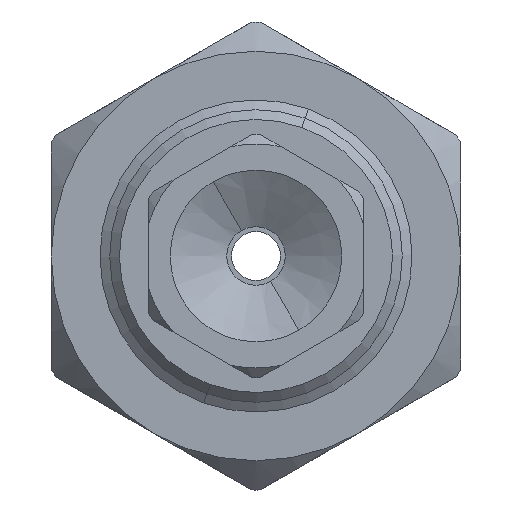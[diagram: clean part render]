
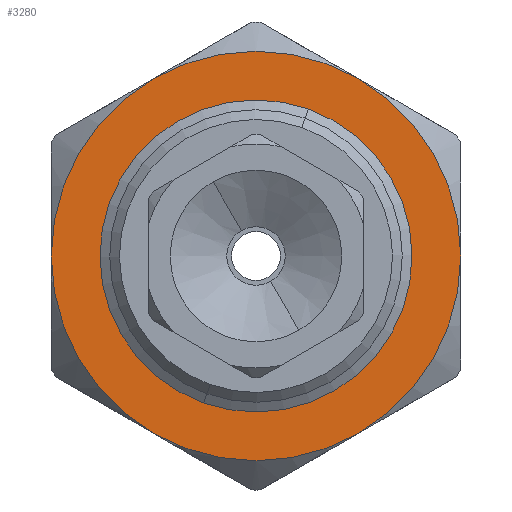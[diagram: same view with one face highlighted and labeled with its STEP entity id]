
A CAD part, front view. The second image highlights one B-rep face of the part: STEP entity #3280.
In plain terms, the highlighted planar face has unit normal (0, -1, 0).
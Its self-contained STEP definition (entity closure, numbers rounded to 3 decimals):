
#71 = EDGE_CURVE ( 'NONE', #2923, #13880, #11452, .T. ) ;
#479 = CARTESIAN_POINT ( 'NONE',  ( 0., 0., -10.5 ) ) ;
#631 = CIRCLE ( 'NONE', #11801, 10.5 ) ;
#672 = CARTESIAN_POINT ( 'NONE',  ( 0., 0., 7.25 ) ) ;
#763 = AXIS2_PLACEMENT_3D ( 'NONE', #2739, #1932, #9781 ) ;
#810 = DIRECTION ( 'NONE',  ( 0., 0., 1. ) ) ;
#840 = CARTESIAN_POINT ( 'NONE',  ( -9.093, 0., -5.25 ) ) ;
#955 = CARTESIAN_POINT ( 'NONE',  ( 0., 0., 0. ) ) ;
#1196 = CARTESIAN_POINT ( 'NONE',  ( 0., 0., 0. ) ) ;
#1346 = ORIENTED_EDGE ( 'NONE', *, *, #4071, .T. ) ;
#1357 = CARTESIAN_POINT ( 'NONE',  ( 0., 0., 0. ) ) ;
#1377 = DIRECTION ( 'NONE',  ( 0., 1., 0. ) ) ;
#1649 = VERTEX_POINT ( 'NONE', #2186 ) ;
#1803 = AXIS2_PLACEMENT_3D ( 'NONE', #12537, #10304, #2741 ) ;
#1932 = DIRECTION ( 'NONE',  ( 0., -1., 0. ) ) ;
#2110 = CIRCLE ( 'NONE', #7232, 10.5 ) ;
#2126 = FACE_BOUND ( 'NONE', #14270, .T. ) ;
#2186 = CARTESIAN_POINT ( 'NONE',  ( -9.093, 0., 5.25 ) ) ;
#2580 = DIRECTION ( 'NONE',  ( 0., 0., 1. ) ) ;
#2739 = CARTESIAN_POINT ( 'NONE',  ( 0., 0., 0. ) ) ;
#2741 = DIRECTION ( 'NONE',  ( 0., 0., 1. ) ) ;
#2821 = AXIS2_PLACEMENT_3D ( 'NONE', #9765, #13300, #8824 ) ;
#2923 = VERTEX_POINT ( 'NONE', #479 ) ;
#3280 = ADVANCED_FACE ( 'NONE', ( #2126, #8897 ), #6571, .F. ) ;
#3287 = EDGE_CURVE ( 'NONE', #1649, #4807, #2110, .T. ) ;
#3550 = VERTEX_POINT ( 'NONE', #672 ) ;
#3591 = DIRECTION ( 'NONE',  ( 0., -1., 0. ) ) ;
#3741 = CARTESIAN_POINT ( 'NONE',  ( 0., 0., 10.5 ) ) ;
#3990 = EDGE_CURVE ( 'NONE', #4807, #2923, #7820, .T. ) ;
#4071 = EDGE_CURVE ( 'NONE', #13880, #11716, #13374, .T. ) ;
#4220 = CIRCLE ( 'NONE', #7490, 7.25 ) ;
#4335 = AXIS2_PLACEMENT_3D ( 'NONE', #955, #8646, #810 ) ;
#4559 = DIRECTION ( 'NONE',  ( 0., -1., 0. ) ) ;
#4807 = VERTEX_POINT ( 'NONE', #840 ) ;
#4979 = CARTESIAN_POINT ( 'NONE',  ( 9.093, 0., -5.25 ) ) ;
#5001 = ORIENTED_EDGE ( 'NONE', *, *, #13895, .T. ) ;
#5927 = CARTESIAN_POINT ( 'NONE',  ( 0., 0., -7.25 ) ) ;
#6030 = CARTESIAN_POINT ( 'NONE',  ( 0., 0., 0. ) ) ;
#6221 = AXIS2_PLACEMENT_3D ( 'NONE', #12336, #4559, #13420 ) ;
#6347 = VERTEX_POINT ( 'NONE', #3741 ) ;
#6515 = ORIENTED_EDGE ( 'NONE', *, *, #3990, .T. ) ;
#6529 = EDGE_LOOP ( 'NONE', ( #12221, #1346, #5001, #10709, #13487, #6515 ) ) ;
#6559 = AXIS2_PLACEMENT_3D ( 'NONE', #14310, #9990, #12150 ) ;
#6571 = PLANE ( 'NONE',  #2821 ) ;
#6727 = EDGE_CURVE ( 'NONE', #12494, #3550, #7715, .T. ) ;
#7184 = DIRECTION ( 'NONE',  ( 0., 0., 1. ) ) ;
#7232 = AXIS2_PLACEMENT_3D ( 'NONE', #1196, #7574, #8961 ) ;
#7490 = AXIS2_PLACEMENT_3D ( 'NONE', #6030, #1377, #7184 ) ;
#7574 = DIRECTION ( 'NONE',  ( 0., -1., 0. ) ) ;
#7715 = CIRCLE ( 'NONE', #6559, 7.25 ) ;
#7820 = CIRCLE ( 'NONE', #4335, 10.5 ) ;
#8646 = DIRECTION ( 'NONE',  ( 0., -1., 0. ) ) ;
#8824 = DIRECTION ( 'NONE',  ( 0., 0., 1. ) ) ;
#8897 = FACE_OUTER_BOUND ( 'NONE', #6529, .T. ) ;
#8961 = DIRECTION ( 'NONE',  ( 0., 0., 1. ) ) ;
#9163 = ORIENTED_EDGE ( 'NONE', *, *, #11713, .T. ) ;
#9765 = CARTESIAN_POINT ( 'NONE',  ( 0., 0., 0. ) ) ;
#9781 = DIRECTION ( 'NONE',  ( 0., 0., 1. ) ) ;
#9990 = DIRECTION ( 'NONE',  ( 0., 1., 0. ) ) ;
#10304 = DIRECTION ( 'NONE',  ( 0., -1., 0. ) ) ;
#10709 = ORIENTED_EDGE ( 'NONE', *, *, #13429, .T. ) ;
#11452 = CIRCLE ( 'NONE', #763, 10.5 ) ;
#11478 = CARTESIAN_POINT ( 'NONE',  ( 9.093, 0., 5.25 ) ) ;
#11713 = EDGE_CURVE ( 'NONE', #3550, #12494, #4220, .T. ) ;
#11716 = VERTEX_POINT ( 'NONE', #11478 ) ;
#11801 = AXIS2_PLACEMENT_3D ( 'NONE', #1357, #3591, #2580 ) ;
#12150 = DIRECTION ( 'NONE',  ( 0., 0., 1. ) ) ;
#12221 = ORIENTED_EDGE ( 'NONE', *, *, #71, .T. ) ;
#12336 = CARTESIAN_POINT ( 'NONE',  ( 0., 0., 0. ) ) ;
#12494 = VERTEX_POINT ( 'NONE', #5927 ) ;
#12510 = ORIENTED_EDGE ( 'NONE', *, *, #6727, .T. ) ;
#12537 = CARTESIAN_POINT ( 'NONE',  ( 0., 0., 0. ) ) ;
#13300 = DIRECTION ( 'NONE',  ( 0., 1., 0. ) ) ;
#13374 = CIRCLE ( 'NONE', #6221, 10.5 ) ;
#13420 = DIRECTION ( 'NONE',  ( 0., 0., 1. ) ) ;
#13429 = EDGE_CURVE ( 'NONE', #6347, #1649, #13837, .T. ) ;
#13487 = ORIENTED_EDGE ( 'NONE', *, *, #3287, .T. ) ;
#13837 = CIRCLE ( 'NONE', #1803, 10.5 ) ;
#13880 = VERTEX_POINT ( 'NONE', #4979 ) ;
#13895 = EDGE_CURVE ( 'NONE', #11716, #6347, #631, .T. ) ;
#14270 = EDGE_LOOP ( 'NONE', ( #9163, #12510 ) ) ;
#14310 = CARTESIAN_POINT ( 'NONE',  ( 0., 0., 0. ) ) ;
